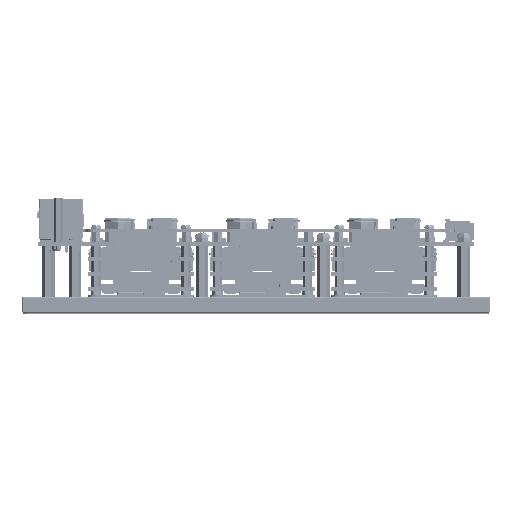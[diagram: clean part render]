
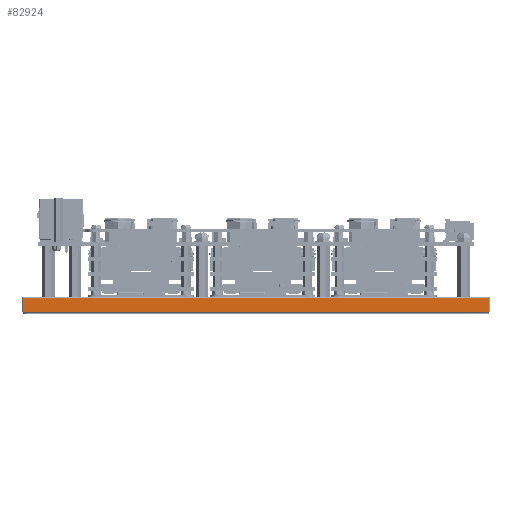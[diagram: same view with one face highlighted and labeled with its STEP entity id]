
A CAD part, front view. The second image highlights one B-rep face of the part: STEP entity #82924.
In plain terms, the highlighted planar face has unit normal (0, -1, 0).
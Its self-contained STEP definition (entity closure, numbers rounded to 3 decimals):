
#23023=DIRECTION('',(1.,0.,0.));
#23024=VECTOR('',#23023,176.2);
#23025=CARTESIAN_POINT('',(-88.1,-50.,-0.198));
#23026=LINE('',#23025,#23024);
#23252=CARTESIAN_POINT('',(-88.1,-50.,5.202));
#23269=CARTESIAN_POINT('',(88.1,-50.,5.202));
#23271=DIRECTION('',(-1.,0.,0.));
#23272=VECTOR('',#23271,176.2);
#23273=CARTESIAN_POINT('',(88.1,-50.,5.202));
#23274=LINE('',#23273,#23272);
#23288=DIRECTION('',(0.,0.,-1.));
#23289=VECTOR('',#23288,5.4);
#23290=CARTESIAN_POINT('',(-88.1,-50.,5.202));
#23291=LINE('',#23290,#23289);
#23305=DIRECTION('',(0.,0.,-1.));
#23306=VECTOR('',#23305,5.4);
#23307=CARTESIAN_POINT('',(88.1,-50.,5.202));
#23308=LINE('',#23307,#23306);
#42347=VERTEX_POINT('',#23252);
#42350=VERTEX_POINT('',#23269);
#42351=CARTESIAN_POINT('',(-88.1,-50.,-0.198));
#42352=VERTEX_POINT('',#42351);
#42358=CARTESIAN_POINT('',(88.1,-50.,-0.198));
#42359=VERTEX_POINT('',#42358);
#82912=CARTESIAN_POINT('',(0.,-50.,2.502));
#82913=DIRECTION('',(0.,1.,0.));
#82914=DIRECTION('',(1.,0.,0.));
#82915=AXIS2_PLACEMENT_3D('',#82912,#82913,#82914);
#82916=PLANE('',#82915);
#82917=ORIENTED_EDGE('',*,*,#82900,.F.);
#82918=ORIENTED_EDGE('',*,*,#82889,.F.);
#82920=ORIENTED_EDGE('',*,*,#82919,.T.);
#82921=ORIENTED_EDGE('',*,*,#82695,.F.);
#82922=EDGE_LOOP('',(#82917,#82918,#82920,#82921));
#82923=FACE_OUTER_BOUND('',#82922,.F.);
#82924=ADVANCED_FACE('',(#82923),#82916,.F.);
#82695=EDGE_CURVE('',#42352,#42359,#23026,.T.);
#82889=EDGE_CURVE('',#42350,#42347,#23274,.T.);
#82900=EDGE_CURVE('',#42347,#42352,#23291,.T.);
#82919=EDGE_CURVE('',#42350,#42359,#23308,.T.);
